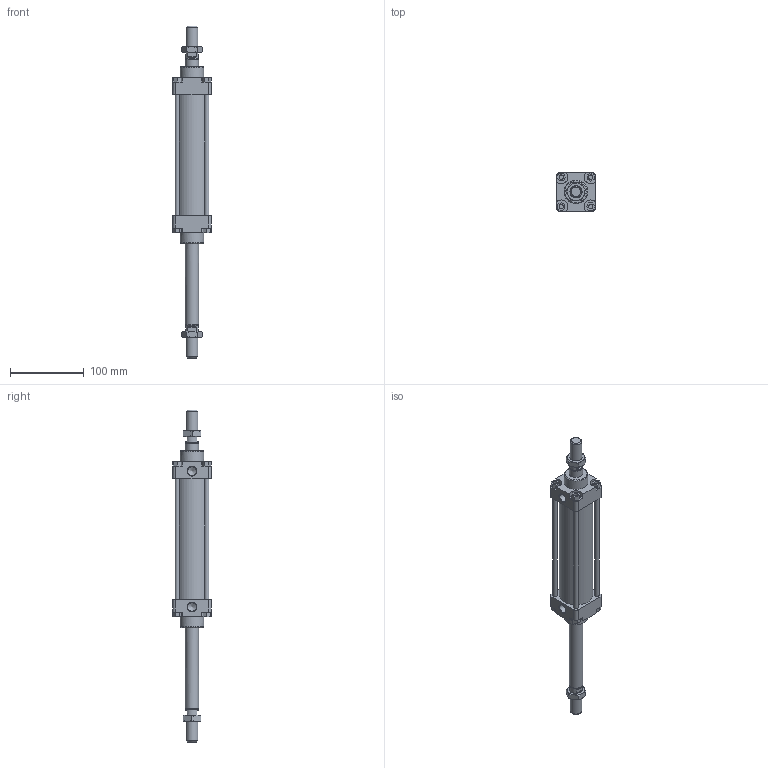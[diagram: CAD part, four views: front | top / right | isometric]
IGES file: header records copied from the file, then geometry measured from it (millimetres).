
Global section: file name: 1303_040_0100_02A; native system: Autodesk Inventor 2014; preprocessor: unknown; author: A. Manieri; date: 20161123.144213; units: millimetre
Bounding box: 52 x 52 x 450 mm (x, y, z)
Volume: 367123.5 mm3; surface area: 124105.1 mm2
Topology: 10 solids, 10 shells, 189 faces, 471 edges, 314 vertices
Faces by surface type: bspline 189
